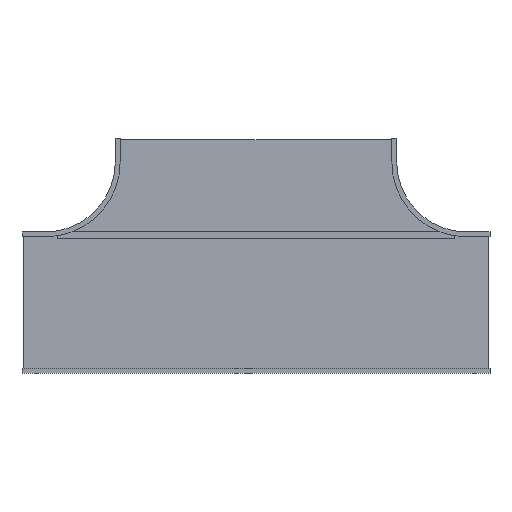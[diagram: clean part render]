
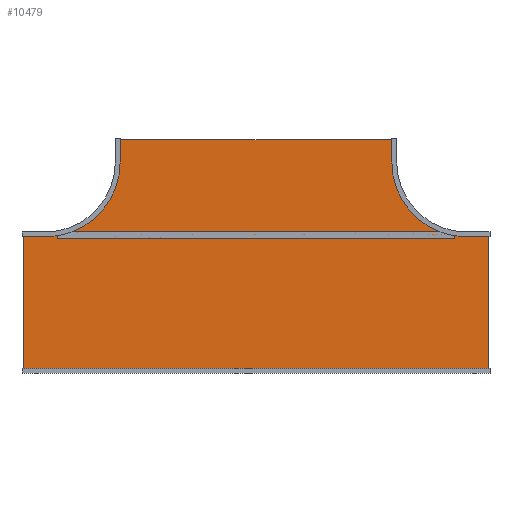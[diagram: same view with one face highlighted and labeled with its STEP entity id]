
A CAD part, front view. The second image highlights one B-rep face of the part: STEP entity #10479.
In plain terms, the highlighted planar face has unit normal (0, -1, 0).
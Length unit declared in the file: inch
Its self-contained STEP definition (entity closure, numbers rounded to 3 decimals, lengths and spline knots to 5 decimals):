
#10288=DIRECTION('',(1.,0.,0.));
#10289=VECTOR('',#10288,35.875);
#10290=CARTESIAN_POINT('',(-17.9375,0.,0.));
#10291=LINE('',#10290,#10289);
#10292=DIRECTION('',(0.,0.,-1.));
#10293=VECTOR('',#10292,2.875);
#10294=CARTESIAN_POINT('',(17.9375,0.,0.));
#10295=LINE('',#10294,#10293);
#10296=CARTESIAN_POINT('',(27.,0.,-2.875));
#10297=DIRECTION('',(0.,-1.,0.));
#10298=DIRECTION('',(-1.,0.,0.));
#10299=AXIS2_PLACEMENT_3D('',#10296,#10297,#10298);
#10301=DIRECTION('',(1.,0.,0.));
#10302=VECTOR('',#10301,2.875);
#10303=CARTESIAN_POINT('',(27.,0.,-11.9375));
#10304=LINE('',#10303,#10302);
#10305=DIRECTION('',(0.,0.,-1.));
#10306=VECTOR('',#10305,17.875);
#10307=CARTESIAN_POINT('',(29.875,0.,-11.9375));
#10308=LINE('',#10307,#10306);
#10309=DIRECTION('',(-1.,0.,0.));
#10310=VECTOR('',#10309,59.75);
#10311=CARTESIAN_POINT('',(29.875,0.,-29.8125));
#10312=LINE('',#10311,#10310);
#10313=DIRECTION('',(0.,0.,1.));
#10314=VECTOR('',#10313,17.875);
#10315=CARTESIAN_POINT('',(-29.875,0.,-29.8125));
#10316=LINE('',#10315,#10314);
#10317=DIRECTION('',(1.,0.,0.));
#10318=VECTOR('',#10317,2.875);
#10319=CARTESIAN_POINT('',(-29.875,0.,-11.9375));
#10320=LINE('',#10319,#10318);
#10321=CARTESIAN_POINT('',(-27.,0.,-2.875));
#10322=DIRECTION('',(0.,-1.,0.));
#10323=DIRECTION('',(0.,0.,-1.));
#10324=AXIS2_PLACEMENT_3D('',#10321,#10322,#10323);
#10326=DIRECTION('',(0.,0.,1.));
#10327=VECTOR('',#10326,2.875);
#10328=CARTESIAN_POINT('',(-17.9375,0.,-2.875));
#10329=LINE('',#10328,#10327);
#10412=CARTESIAN_POINT('',(-17.9375,0.,0.));
#10413=CARTESIAN_POINT('',(17.9375,0.,0.));
#10414=VERTEX_POINT('',#10412);
#10415=VERTEX_POINT('',#10413);
#10416=CARTESIAN_POINT('',(17.9375,0.,-2.875));
#10417=VERTEX_POINT('',#10416);
#10418=CARTESIAN_POINT('',(27.,0.,-11.9375));
#10419=VERTEX_POINT('',#10418);
#10420=CARTESIAN_POINT('',(29.875,0.,-11.9375));
#10421=VERTEX_POINT('',#10420);
#10422=CARTESIAN_POINT('',(29.875,0.,-29.8125));
#10423=VERTEX_POINT('',#10422);
#10424=CARTESIAN_POINT('',(-29.875,0.,-29.8125));
#10425=VERTEX_POINT('',#10424);
#10426=CARTESIAN_POINT('',(-29.875,0.,-11.9375));
#10427=VERTEX_POINT('',#10426);
#10428=CARTESIAN_POINT('',(-27.,0.,-11.9375));
#10429=VERTEX_POINT('',#10428);
#10430=CARTESIAN_POINT('',(-17.9375,0.,-2.875));
#10431=VERTEX_POINT('',#10430);
#10452=CARTESIAN_POINT('',(0.,0.,0.));
#10453=DIRECTION('',(0.,1.,0.));
#10454=DIRECTION('',(1.,0.,0.));
#10455=AXIS2_PLACEMENT_3D('',#10452,#10453,#10454);
#10456=PLANE('',#10455);
#10458=ORIENTED_EDGE('',*,*,#10457,.T.);
#10460=ORIENTED_EDGE('',*,*,#10459,.T.);
#10462=ORIENTED_EDGE('',*,*,#10461,.T.);
#10464=ORIENTED_EDGE('',*,*,#10463,.T.);
#10466=ORIENTED_EDGE('',*,*,#10465,.T.);
#10468=ORIENTED_EDGE('',*,*,#10467,.T.);
#10470=ORIENTED_EDGE('',*,*,#10469,.T.);
#10472=ORIENTED_EDGE('',*,*,#10471,.T.);
#10474=ORIENTED_EDGE('',*,*,#10473,.T.);
#10476=ORIENTED_EDGE('',*,*,#10475,.T.);
#10477=EDGE_LOOP('',(#10458,#10460,#10462,#10464,#10466,#10468,#10470,#10472,
#10474,#10476));
#10478=FACE_OUTER_BOUND('',#10477,.F.);
#10479=ADVANCED_FACE('',(#10478),#10456,.F.);
#10300=CIRCLE('',#10299,9.0625);
#10325=CIRCLE('',#10324,9.0625);
#10457=EDGE_CURVE('',#10414,#10415,#10291,.T.);
#10459=EDGE_CURVE('',#10415,#10417,#10295,.T.);
#10461=EDGE_CURVE('',#10417,#10419,#10300,.T.);
#10463=EDGE_CURVE('',#10419,#10421,#10304,.T.);
#10465=EDGE_CURVE('',#10421,#10423,#10308,.T.);
#10467=EDGE_CURVE('',#10423,#10425,#10312,.T.);
#10469=EDGE_CURVE('',#10425,#10427,#10316,.T.);
#10471=EDGE_CURVE('',#10427,#10429,#10320,.T.);
#10473=EDGE_CURVE('',#10429,#10431,#10325,.T.);
#10475=EDGE_CURVE('',#10431,#10414,#10329,.T.);
